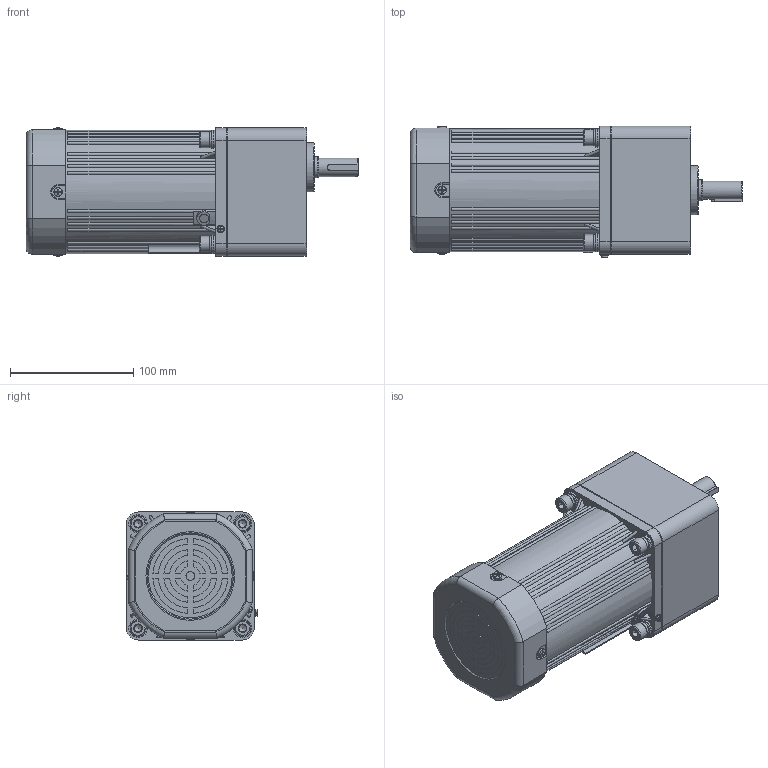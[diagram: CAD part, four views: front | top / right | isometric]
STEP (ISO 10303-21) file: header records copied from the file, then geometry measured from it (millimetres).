
FILE_DESCRIPTION(/* description */ (''),/* implementation_level */ '2;1');
FILE_NAME(/* name */ '6RK160-200CC·F#6GU3-750K-C·15L.stp',/* time_stamp */ '2024-05-29T19:33:49+08:00',/* author */ (''),/* organization */ (''),/* preprocessor_version */ 'ST-DEVELOPER v18.102',/* originating_system */ 'SIEMENS PLM Software NX 2027',/* authorisation */ '');
FILE_SCHEMA (('AP203_CONFIGURATION_CONTROLLED_3D_DESIGN_OF_MECHANICAL_PARTS_AND_ASSEMBLIES_MIM_LF { 1 0 10303 403 2 1 2}'));
Products named in the file (1): A0_objects
Bounding box: 269.5 x 106.83 x 104.06 mm (x, y, z)
Volume: 2287282.1 mm3; surface area: 340754.2 mm2
Topology: 24 solids, 24 shells, 1728 faces, 4587 edges, 2998 vertices
Faces by surface type: plane 702, cylinder 471, bspline 310, cone 139, torus 78, sphere 28
Full cylindrical faces by diameter (mm): 2.6 x2, 2.7 x1, 3 x17, 3.2 x2, 3.5 x4, 3.6 x4, 4 x5, 4.55 x2, 5.1 x2, 5.15 x2, 6 x2, 6.8 x20, 7 x2, 7.5 x2, 7.76 x4, 8.4 x4, 8.5 x4, 9 x9, 9.3 x1, 13 x5, 14 x9, 15 x6, 15.5 x2, 17 x1, 17.3 x1, 19 x2, 21 x1, 28 x1, 30 x3, 35 x1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
Entity records: 55447 total; most frequent: CARTESIAN_POINT 15008, ORIENTED_EDGE 8278, DIRECTION 7375, EDGE_CURVE 4139, AXIS2_PLACEMENT_3D 2930, VERTEX_POINT 2832, EDGE_LOOP 2174, ADVANCED_FACE 1728
